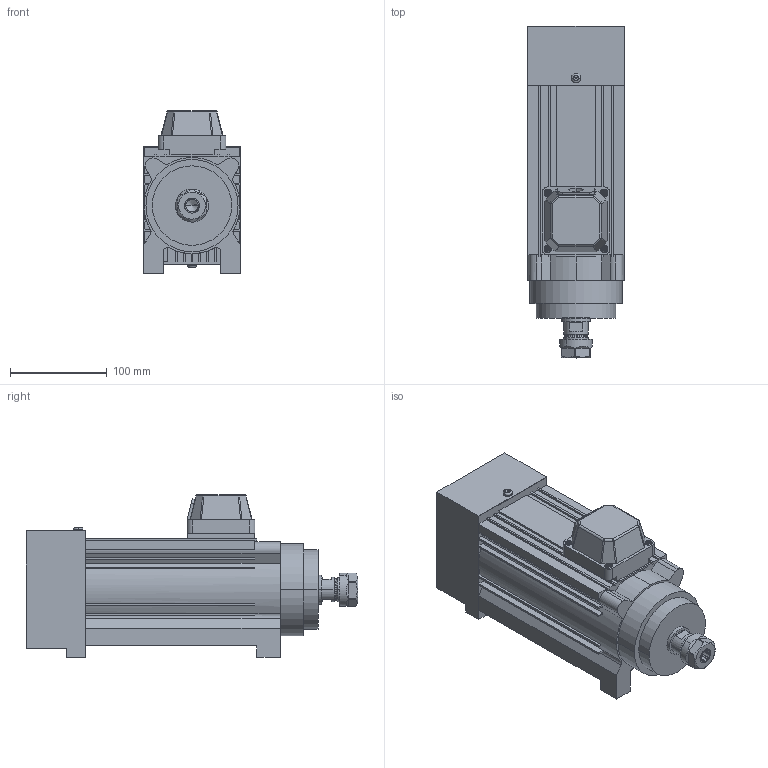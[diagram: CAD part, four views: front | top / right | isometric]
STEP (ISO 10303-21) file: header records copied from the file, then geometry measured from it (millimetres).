
FILE_DESCRIPTION(('STEP AP214'),'1');
FILE_NAME('spindle_motor_isa_1500_l-477510_3106.stp','2017-04-25T07:24:07',('TraceParts'),('TraceParts S.A.'),'Spatial InterOp 3D',' ',' ');
FILE_SCHEMA(('automotive_design'));
Length unit declared in the file: millimetre
Products named in the file (3): spindle_motor_isa_1500_l-477510_3106_1; spindle_motor_isa_1500_l-477510_3106_2; spindle_motor_isa_1500_l-477510_3106_3
Bounding box: 99 x 342.16 x 168 mm (x, y, z)
Volume: 3161238.1 mm3; surface area: 229683.4 mm2
Topology: 3 solids, 3 shells, 755 faces, 1976 edges, 1268 vertices
Faces by surface type: plane 559, cylinder 114, cone 54, torus 16, sphere 8, bspline 4
Entity records: 23319 total; most frequent: CARTESIAN_POINT 4710, ORIENTED_EDGE 3916, DIRECTION 3754, EDGE_CURVE 1958, LINE 1406, VECTOR 1406, VERTEX_POINT 1268, AXIS2_PLACEMENT_3D 1174
